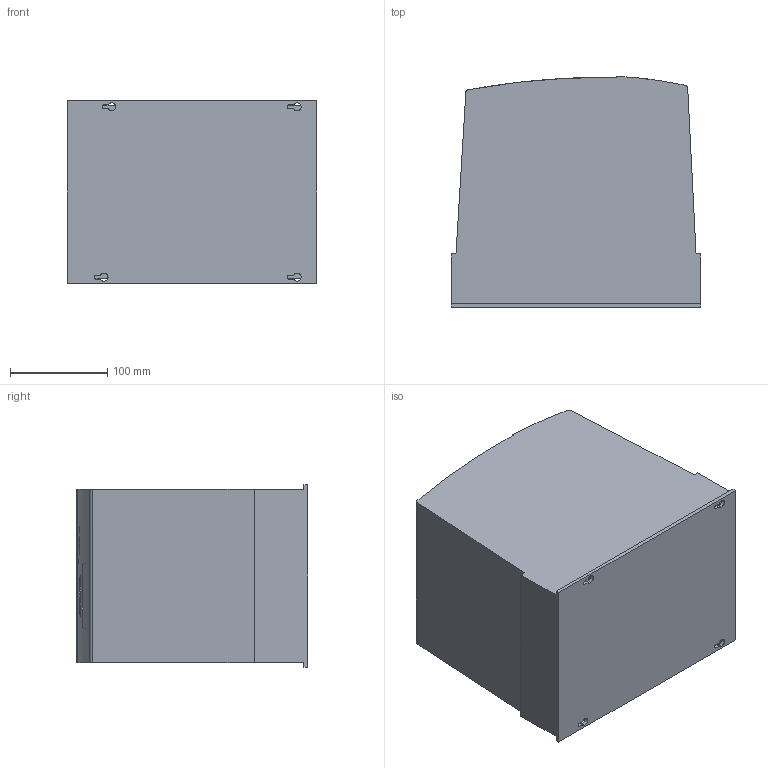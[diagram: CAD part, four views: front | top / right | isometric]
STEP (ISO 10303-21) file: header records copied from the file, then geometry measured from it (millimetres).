
FILE_DESCRIPTION (( 'STEP AP214' ), '1' );
FILE_NAME ('P2 S2 IP66 SW1.STEP', '2017-08-15T11:21:23', ( '' ), ( '' ), 'SwSTEP 2.0', 'SolidWorks 2017', '' );
FILE_SCHEMA (( 'AUTOMOTIVE_DESIGN' ));
Length unit declared in the file: millimetre
Products named in the file (1): P2 S2 IP66 SW1
Bounding box: 257 x 237.74 x 188 mm (x, y, z)
Volume: 10028454.3 mm3; surface area: 287727.7 mm2
Topology: 1 solids, 1 shells, 322 faces, 832 edges, 552 vertices
Faces by surface type: plane 170, cylinder 111, bspline 41
Entity records: 11506 total; most frequent: CARTESIAN_POINT 4098, ORIENTED_EDGE 1664, DIRECTION 1316, EDGE_CURVE 832, VERTEX_POINT 552, AXIS2_PLACEMENT_3D 442, VECTOR 432, LINE 432
